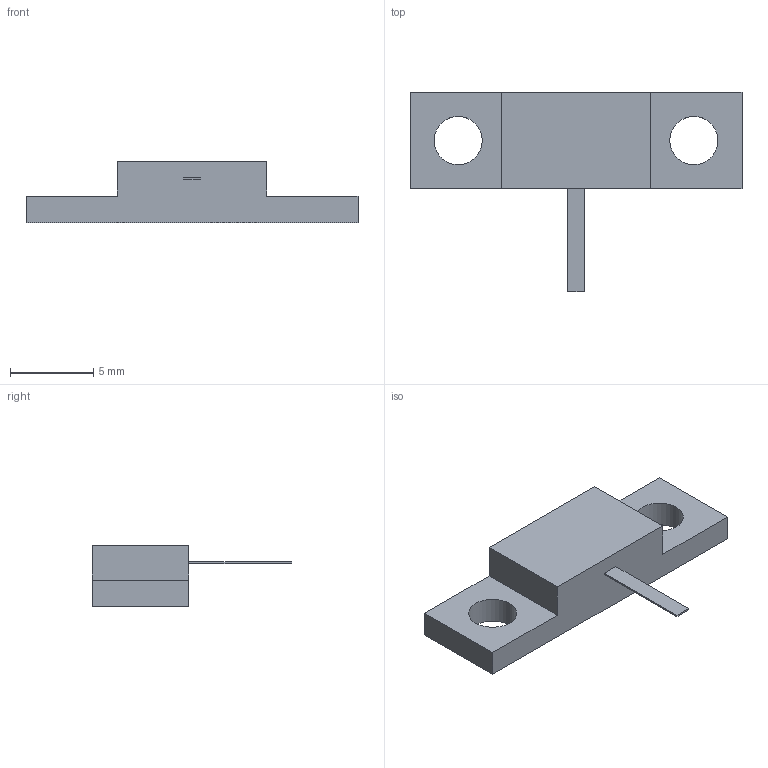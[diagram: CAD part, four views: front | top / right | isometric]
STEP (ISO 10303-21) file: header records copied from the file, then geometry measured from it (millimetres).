
FILE_DESCRIPTION(('STEP AP203'), '1');
FILE_NAME('P1-170-100-22', '', ('UNSPECIFIED'), ('UNSPECIFIED'), 'ASCON STEP Converter 1.6', 'ASCON Math Kernel', '');
FILE_SCHEMA(('CONFIG_CONTROL_DESIGN'));
Length unit declared in the file: millimetre
Bounding box: 20 x 12 x 3.7 mm (x, y, z)
Volume: 274.7 mm3; surface area: 393.1 mm2
Topology: 1 solids, 1 shells, 17 faces, 42 edges, 28 vertices
Faces by surface type: plane 15, cylinder 2
Full cylindrical faces by diameter (mm): 2.9 x2
Entity records: 678 total; most frequent: CARTESIAN_POINT 86, DIRECTION 80, ORIENTED_EDGE 80, EDGE_CURVE 40, LINE 36, VECTOR 36, VERTEX_POINT 28, EDGE_LOOP 24
